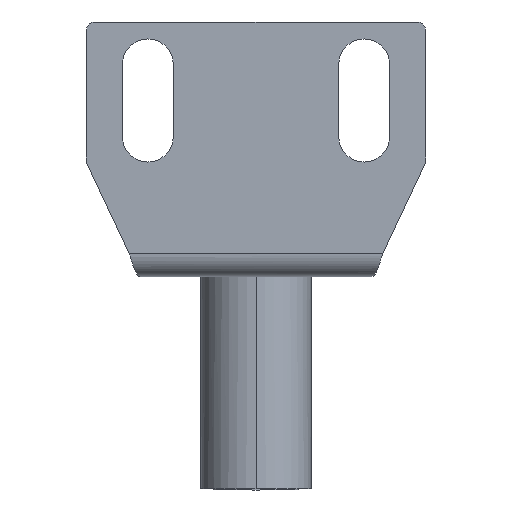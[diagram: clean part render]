
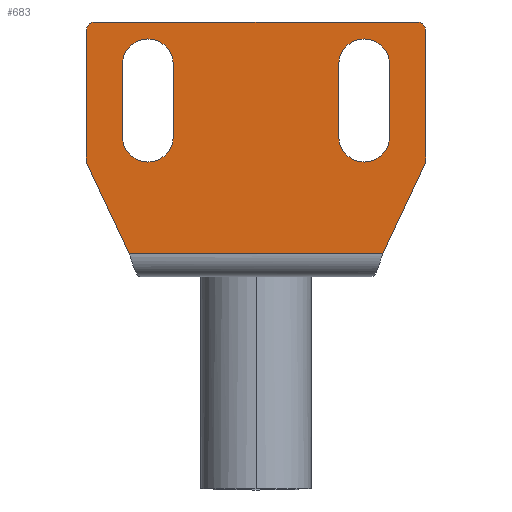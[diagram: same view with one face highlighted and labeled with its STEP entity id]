
A CAD part, front view. The second image highlights one B-rep face of the part: STEP entity #683.
In plain terms, the highlighted planar face has unit normal (0, -1, 0).
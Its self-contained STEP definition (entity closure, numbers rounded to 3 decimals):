
#9 = LINE ( 'NONE', #402, #60 ) ;
#12 = EDGE_CURVE ( 'NONE', #1013, #696, #184, .T. ) ;
#29 = DIRECTION ( 'NONE',  ( 0., -1., 0. ) ) ;
#38 = LINE ( 'NONE', #359, #47 ) ;
#39 = ORIENTED_EDGE ( 'NONE', *, *, #287, .T. ) ;
#40 = DIRECTION ( 'NONE',  ( 1., 0., 0. ) ) ;
#43 = DIRECTION ( 'NONE',  ( 0., 0., 1. ) ) ;
#47 = VECTOR ( 'NONE', #522, 1000. ) ;
#58 = EDGE_CURVE ( 'NONE', #944, #620, #712, .T. ) ;
#60 = VECTOR ( 'NONE', #995, 1000. ) ;
#63 = AXIS2_PLACEMENT_3D ( 'NONE', #844, #950, #106 ) ;
#64 = DIRECTION ( 'NONE',  ( 0., 1., 0. ) ) ;
#66 = LINE ( 'NONE', #139, #914 ) ;
#75 = CARTESIAN_POINT ( 'NONE',  ( -15.75, -2., -45.75 ) ) ;
#77 = AXIS2_PLACEMENT_3D ( 'NONE', #799, #64, #639 ) ;
#87 = VERTEX_POINT ( 'NONE', #783 ) ;
#96 = CARTESIAN_POINT ( 'NONE',  ( 20., -2., -3. ) ) ;
#106 = DIRECTION ( 'NONE',  ( 0., 0., 1. ) ) ;
#107 = ORIENTED_EDGE ( 'NONE', *, *, #637, .T. ) ;
#109 = EDGE_CURVE ( 'NONE', #845, #348, #910, .T. ) ;
#111 = LINE ( 'NONE', #704, #162 ) ;
#112 = ORIENTED_EDGE ( 'NONE', *, *, #109, .F. ) ;
#114 = EDGE_CURVE ( 'NONE', #696, #999, #494, .T. ) ;
#116 = LINE ( 'NONE', #438, #800 ) ;
#119 = CARTESIAN_POINT ( 'NONE',  ( -9.75, -2., -15.5 ) ) ;
#122 = LINE ( 'NONE', #360, #863 ) ;
#134 = FACE_OUTER_BOUND ( 'NONE', #883, .T. ) ;
#138 = EDGE_CURVE ( 'NONE', #999, #732, #436, .T. ) ;
#139 = CARTESIAN_POINT ( 'NONE',  ( -9.75, -2., -45.75 ) ) ;
#162 = VECTOR ( 'NONE', #945, 1000. ) ;
#171 = VERTEX_POINT ( 'NONE', #735 ) ;
#183 = ORIENTED_EDGE ( 'NONE', *, *, #1020, .T. ) ;
#184 = CIRCLE ( 'NONE', #703, 3. ) ;
#201 = CIRCLE ( 'NONE', #298, 3. ) ;
#202 = VECTOR ( 'NONE', #812, 1000. ) ;
#224 = DIRECTION ( 'NONE',  ( 0., 0., 1. ) ) ;
#235 = CARTESIAN_POINT ( 'NONE',  ( 12.75, -2., -7. ) ) ;
#253 = CARTESIAN_POINT ( 'NONE',  ( -14.937, -2., -29.263 ) ) ;
#265 = CIRCLE ( 'NONE', #609, 1. ) ;
#279 = CARTESIAN_POINT ( 'NONE',  ( 9.75, -2., -15.5 ) ) ;
#281 = EDGE_CURVE ( 'NONE', #460, #282, #38, .T. ) ;
#282 = VERTEX_POINT ( 'NONE', #442 ) ;
#287 = EDGE_CURVE ( 'NONE', #171, #944, #574, .T. ) ;
#290 = FACE_BOUND ( 'NONE', #684, .T. ) ;
#294 = DIRECTION ( 'NONE',  ( 0., 0., -1. ) ) ;
#298 = AXIS2_PLACEMENT_3D ( 'NONE', #235, #506, #674 ) ;
#306 = ORIENTED_EDGE ( 'NONE', *, *, #486, .F. ) ;
#320 = ORIENTED_EDGE ( 'NONE', *, *, #347, .F. ) ;
#324 = CARTESIAN_POINT ( 'NONE',  ( 0., -2., -29.263 ) ) ;
#326 = CARTESIAN_POINT ( 'NONE',  ( 15.75, -2., -7. ) ) ;
#331 = ORIENTED_EDGE ( 'NONE', *, *, #58, .T. ) ;
#334 = CIRCLE ( 'NONE', #860, 3. ) ;
#338 = CARTESIAN_POINT ( 'NONE',  ( -19., -2., -3. ) ) ;
#347 = EDGE_CURVE ( 'NONE', #864, #928, #491, .T. ) ;
#348 = VERTEX_POINT ( 'NONE', #394 ) ;
#359 = CARTESIAN_POINT ( 'NONE',  ( 9.75, -2., -45.75 ) ) ;
#360 = CARTESIAN_POINT ( 'NONE',  ( 20., -2., -18.5 ) ) ;
#379 = DIRECTION ( 'NONE',  ( 0., 0., -1. ) ) ;
#387 = FACE_BOUND ( 'NONE', #791, .T. ) ;
#394 = CARTESIAN_POINT ( 'NONE',  ( 20., -2., -18.5 ) ) ;
#402 = CARTESIAN_POINT ( 'NONE',  ( -20., -2., 0. ) ) ;
#403 = VERTEX_POINT ( 'NONE', #899 ) ;
#408 = CARTESIAN_POINT ( 'NONE',  ( 20., -2., 0. ) ) ;
#422 = CARTESIAN_POINT ( 'NONE',  ( -9.75, -2., -7. ) ) ;
#436 = CIRCLE ( 'NONE', #912, 3. ) ;
#438 = CARTESIAN_POINT ( 'NONE',  ( 0., -2., -2. ) ) ;
#442 = CARTESIAN_POINT ( 'NONE',  ( 9.75, -2., -7. ) ) ;
#444 = DIRECTION ( 'NONE',  ( -0.426, 0., -0.905 ) ) ;
#447 = VERTEX_POINT ( 'NONE', #422 ) ;
#457 = CARTESIAN_POINT ( 'NONE',  ( 15.75, -2., -45.75 ) ) ;
#460 = VERTEX_POINT ( 'NONE', #279 ) ;
#464 = PLANE ( 'NONE',  #77 ) ;
#469 = EDGE_CURVE ( 'NONE', #928, #558, #111, .T. ) ;
#477 = EDGE_CURVE ( 'NONE', #620, #460, #576, .T. ) ;
#486 = EDGE_CURVE ( 'NONE', #87, #403, #116, .T. ) ;
#487 = DIRECTION ( 'NONE',  ( 0., 1., 0. ) ) ;
#491 = LINE ( 'NONE', #324, #1058 ) ;
#494 = LINE ( 'NONE', #75, #953 ) ;
#503 = EDGE_CURVE ( 'NONE', #348, #864, #122, .T. ) ;
#506 = DIRECTION ( 'NONE',  ( 0., 1., 0. ) ) ;
#515 = CARTESIAN_POINT ( 'NONE',  ( 19., -2., -3. ) ) ;
#522 = DIRECTION ( 'NONE',  ( 0., 0., 1. ) ) ;
#534 = CARTESIAN_POINT ( 'NONE',  ( -15.75, -2., -7. ) ) ;
#536 = CARTESIAN_POINT ( 'NONE',  ( -20., -2., -18.5 ) ) ;
#554 = AXIS2_PLACEMENT_3D ( 'NONE', #779, #1038, #583 ) ;
#558 = VERTEX_POINT ( 'NONE', #536 ) ;
#570 = CARTESIAN_POINT ( 'NONE',  ( -12.75, -2., -4. ) ) ;
#574 = CIRCLE ( 'NONE', #554, 3. ) ;
#576 = CIRCLE ( 'NONE', #63, 3. ) ;
#583 = DIRECTION ( 'NONE',  ( 0., 0., 1. ) ) ;
#609 = AXIS2_PLACEMENT_3D ( 'NONE', #338, #924, #669 ) ;
#617 = CARTESIAN_POINT ( 'NONE',  ( -15.75, -2., -15.5 ) ) ;
#620 = VERTEX_POINT ( 'NONE', #889 ) ;
#637 = EDGE_CURVE ( 'NONE', #447, #1013, #66, .T. ) ;
#639 = DIRECTION ( 'NONE',  ( 0., 0., 1. ) ) ;
#646 = ORIENTED_EDGE ( 'NONE', *, *, #281, .T. ) ;
#650 = DIRECTION ( 'NONE',  ( -1., 0., 0. ) ) ;
#654 = CIRCLE ( 'NONE', #1034, 1. ) ;
#669 = DIRECTION ( 'NONE',  ( 0., 0., 1. ) ) ;
#674 = DIRECTION ( 'NONE',  ( 0., 0., 1. ) ) ;
#683 = ADVANCED_FACE ( 'NONE', ( #387, #290, #134 ), #464, .F. ) ;
#684 = EDGE_LOOP ( 'NONE', ( #646, #761, #39, #331, #868 ) ) ;
#692 = ORIENTED_EDGE ( 'NONE', *, *, #809, .T. ) ;
#696 = VERTEX_POINT ( 'NONE', #617 ) ;
#699 = ORIENTED_EDGE ( 'NONE', *, *, #785, .F. ) ;
#703 = AXIS2_PLACEMENT_3D ( 'NONE', #979, #1048, #973 ) ;
#704 = CARTESIAN_POINT ( 'NONE',  ( -20., -2., -18.5 ) ) ;
#712 = LINE ( 'NONE', #457, #755 ) ;
#717 = CARTESIAN_POINT ( 'NONE',  ( -20., -2., -3. ) ) ;
#725 = DIRECTION ( 'NONE',  ( 0., 0., 1. ) ) ;
#732 = VERTEX_POINT ( 'NONE', #570 ) ;
#735 = CARTESIAN_POINT ( 'NONE',  ( 12.75, -2., -4. ) ) ;
#755 = VECTOR ( 'NONE', #379, 1000. ) ;
#761 = ORIENTED_EDGE ( 'NONE', *, *, #869, .T. ) ;
#779 = CARTESIAN_POINT ( 'NONE',  ( 12.75, -2., -7. ) ) ;
#783 = CARTESIAN_POINT ( 'NONE',  ( -19., -2., -2. ) ) ;
#785 = EDGE_CURVE ( 'NONE', #558, #1071, #9, .T. ) ;
#791 = EDGE_LOOP ( 'NONE', ( #934, #1077, #1066, #107, #946 ) ) ;
#799 = CARTESIAN_POINT ( 'NONE',  ( 0., -2., -45.75 ) ) ;
#800 = VECTOR ( 'NONE', #40, 1000. ) ;
#809 = EDGE_CURVE ( 'NONE', #87, #1071, #265, .T. ) ;
#812 = DIRECTION ( 'NONE',  ( 0., 0., -1. ) ) ;
#818 = ORIENTED_EDGE ( 'NONE', *, *, #469, .F. ) ;
#821 = DIRECTION ( 'NONE',  ( 0., 1., 0. ) ) ;
#828 = CARTESIAN_POINT ( 'NONE',  ( -12.75, -2., -7. ) ) ;
#835 = DIRECTION ( 'NONE',  ( 0., 0., 1. ) ) ;
#844 = CARTESIAN_POINT ( 'NONE',  ( 12.75, -2., -15.5 ) ) ;
#845 = VERTEX_POINT ( 'NONE', #96 ) ;
#860 = AXIS2_PLACEMENT_3D ( 'NONE', #929, #487, #835 ) ;
#863 = VECTOR ( 'NONE', #444, 1000. ) ;
#864 = VERTEX_POINT ( 'NONE', #993 ) ;
#868 = ORIENTED_EDGE ( 'NONE', *, *, #477, .T. ) ;
#869 = EDGE_CURVE ( 'NONE', #282, #171, #201, .T. ) ;
#883 = EDGE_LOOP ( 'NONE', ( #306, #692, #699, #818, #320, #1059, #112, #183 ) ) ;
#889 = CARTESIAN_POINT ( 'NONE',  ( 15.75, -2., -15.5 ) ) ;
#899 = CARTESIAN_POINT ( 'NONE',  ( 19., -2., -2. ) ) ;
#908 = EDGE_CURVE ( 'NONE', #732, #447, #334, .T. ) ;
#910 = LINE ( 'NONE', #408, #202 ) ;
#912 = AXIS2_PLACEMENT_3D ( 'NONE', #828, #821, #725 ) ;
#914 = VECTOR ( 'NONE', #294, 1000. ) ;
#924 = DIRECTION ( 'NONE',  ( 0., -1., 0. ) ) ;
#928 = VERTEX_POINT ( 'NONE', #253 ) ;
#929 = CARTESIAN_POINT ( 'NONE',  ( -12.75, -2., -7. ) ) ;
#934 = ORIENTED_EDGE ( 'NONE', *, *, #114, .T. ) ;
#944 = VERTEX_POINT ( 'NONE', #326 ) ;
#945 = DIRECTION ( 'NONE',  ( -0.426, 0., 0.905 ) ) ;
#946 = ORIENTED_EDGE ( 'NONE', *, *, #12, .T. ) ;
#950 = DIRECTION ( 'NONE',  ( 0., 1., 0. ) ) ;
#953 = VECTOR ( 'NONE', #224, 1000. ) ;
#973 = DIRECTION ( 'NONE',  ( 0., 0., 1. ) ) ;
#979 = CARTESIAN_POINT ( 'NONE',  ( -12.75, -2., -15.5 ) ) ;
#993 = CARTESIAN_POINT ( 'NONE',  ( 14.937, -2., -29.263 ) ) ;
#995 = DIRECTION ( 'NONE',  ( 0., 0., 1. ) ) ;
#999 = VERTEX_POINT ( 'NONE', #534 ) ;
#1013 = VERTEX_POINT ( 'NONE', #119 ) ;
#1020 = EDGE_CURVE ( 'NONE', #845, #403, #654, .T. ) ;
#1034 = AXIS2_PLACEMENT_3D ( 'NONE', #515, #29, #43 ) ;
#1038 = DIRECTION ( 'NONE',  ( 0., 1., 0. ) ) ;
#1048 = DIRECTION ( 'NONE',  ( 0., 1., 0. ) ) ;
#1058 = VECTOR ( 'NONE', #650, 1000. ) ;
#1059 = ORIENTED_EDGE ( 'NONE', *, *, #503, .F. ) ;
#1066 = ORIENTED_EDGE ( 'NONE', *, *, #908, .T. ) ;
#1071 = VERTEX_POINT ( 'NONE', #717 ) ;
#1077 = ORIENTED_EDGE ( 'NONE', *, *, #138, .T. ) ;
